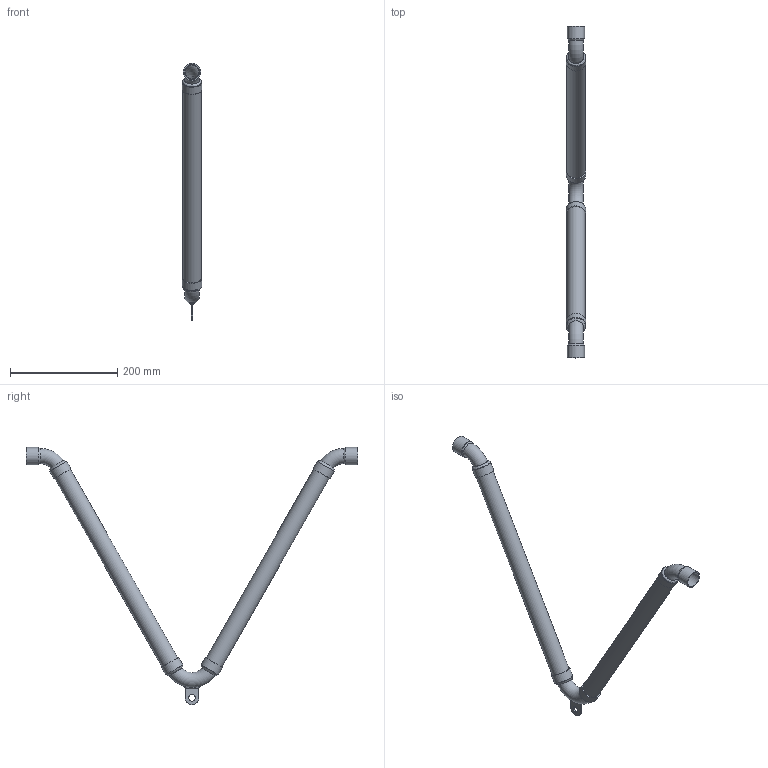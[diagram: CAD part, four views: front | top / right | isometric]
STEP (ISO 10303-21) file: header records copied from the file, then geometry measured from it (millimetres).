
FILE_DESCRIPTION((''),'2;1');
FILE_NAME('C:\REVIT SHARED FILES\STP\VCPSB\VCPSB-1.stp','2013-08-08T10:38:05',('rramoutar'),(''),'Autodesk Inventor 2012','Autodesk Inventor 2012','');
FILE_SCHEMA(('AUTOMOTIVE_DESIGN { 1 0 10303 214 1 1 1 1 }'));
Length unit declared in the file: inch
Products named in the file (7): A-31296 VCPSB 1.0 inch.iam (NO HOSE); A-31296 VCPSB 1.0 inch.iam (NO HOSE)_Welds; A-31126-3 VCPSB 1.0  inch 120 DEGREE ELBOW; A-31302 VCPS & VCPSB 0.5 inch TO 1.5 inch SUPPORT CLIP; A-31118-3 VCPSB 1.0  inch 60 DEGREE ELBOW; A-31011 BRONZE HOSE BRAID COLLAR 1.0 inch; A-31296 VCPSB 1.0 inch PHOSPHOR BRONZE BRAID
Assembly tree (11 placements, depth 2):
  A-31296 VCPSB 1.0 inch.iam (NO HOSE)
    A-31296 VCPSB 1.0 inch.iam (NO HOSE)_Welds
    A-31126-3 VCPSB 1.0  inch 120 DEGREE ELBOW
    A-31302 VCPS & VCPSB 0.5 inch TO 1.5 inch SUPPORT CLIP
    A-31118-3 VCPSB 1.0  inch 60 DEGREE ELBOW  x2
    A-31011 BRONZE HOSE BRAID COLLAR 1.0 inch  x4
    A-31296 VCPSB 1.0 inch PHOSPHOR BRONZE BRAID  x2
Bounding box: 36.8 x 619.12 x 479.6 mm (x, y, z)
Volume: 76557.5 mm3; surface area: 244589.8 mm2
Topology: 15 solids, 15 shells, 72 faces, 141 edges, 94 vertices
Faces by surface type: plane 31, cylinder 18, torus 11, bspline 8, cone 4
Full cylindrical faces by diameter (mm): 12.7 x1, 28.804 x2, 32.106 x2, 33.02 x2, 33.63 x6, 36.805 x4
Entity records: 4453 total; most frequent: CARTESIAN_POINT 3286, DIRECTION 190, ORIENTED_EDGE 156, AXIS2_PLACEMENT_3D 88, EDGE_LOOP 80, EDGE_CURVE 78, VERTEX_POINT 62, FACE_OUTER_BOUND 48
